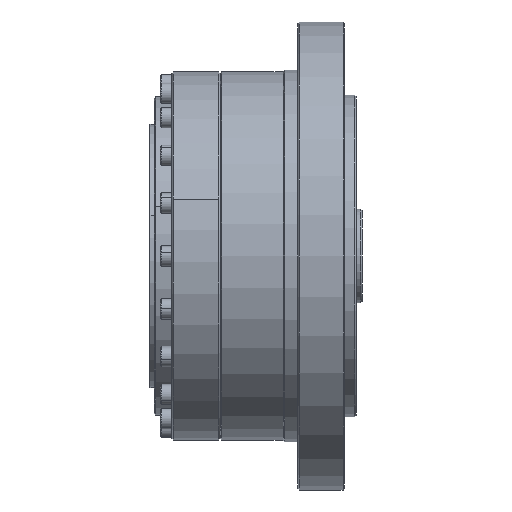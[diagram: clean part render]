
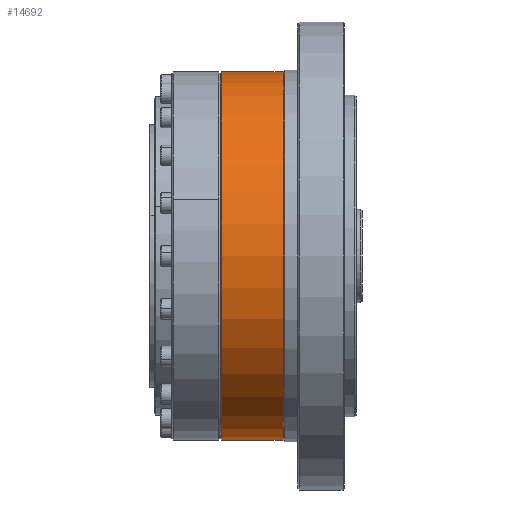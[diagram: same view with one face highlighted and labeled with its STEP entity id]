
A CAD part, front view. The second image highlights one B-rep face of the part: STEP entity #14692.
In plain terms, the highlighted cylindrical face has radius 63 mm (diameter 126 mm), a partial arc.
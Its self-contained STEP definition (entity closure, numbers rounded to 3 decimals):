
#942 = DIRECTION ( 'NONE',  ( 0., 0., -1. ) ) ;
#1430 = CIRCLE ( 'NONE', #2696, 63. ) ;
#1589 = CARTESIAN_POINT ( 'NONE',  ( -18.475, -0.397, 97. ) ) ;
#1648 = CIRCLE ( 'NONE', #2925, 63. ) ;
#2173 = CARTESIAN_POINT ( 'NONE',  ( -323.729, -0.397, 160. ) ) ;
#2696 = AXIS2_PLACEMENT_3D ( 'NONE', #15414, #6607, #16862 ) ;
#2887 = DIRECTION ( 'NONE',  ( -1., 0., 0. ) ) ;
#2917 = ORIENTED_EDGE ( 'NONE', *, *, #18584, .T. ) ;
#2925 = AXIS2_PLACEMENT_3D ( 'NONE', #18406, #9677, #942 ) ;
#3282 = DIRECTION ( 'NONE',  ( -1., 0., 0. ) ) ;
#3802 = VERTEX_POINT ( 'NONE', #11370 ) ;
#4154 = FACE_OUTER_BOUND ( 'NONE', #9440, .T. ) ;
#4329 = VERTEX_POINT ( 'NONE', #1589 ) ;
#4818 = LINE ( 'NONE', #11689, #12206 ) ;
#5059 = VECTOR ( 'NONE', #3282, 1000. ) ;
#5409 = ORIENTED_EDGE ( 'NONE', *, *, #9559, .T. ) ;
#6566 = DIRECTION ( 'NONE',  ( 0., 0., 1. ) ) ;
#6607 = DIRECTION ( 'NONE',  ( -1., 0., 0. ) ) ;
#7268 = ORIENTED_EDGE ( 'NONE', *, *, #18097, .F. ) ;
#8738 = VERTEX_POINT ( 'NONE', #13196 ) ;
#8996 = LINE ( 'NONE', #12081, #5059 ) ;
#9440 = EDGE_LOOP ( 'NONE', ( #7268, #2917, #17129, #5409 ) ) ;
#9559 = EDGE_CURVE ( 'NONE', #8738, #4329, #1648, .T. ) ;
#9677 = DIRECTION ( 'NONE',  ( 1., 0., 0. ) ) ;
#11370 = CARTESIAN_POINT ( 'NONE',  ( 2.525, -0.397, 223. ) ) ;
#11533 = CYLINDRICAL_SURFACE ( 'NONE', #14471, 63. ) ;
#11689 = CARTESIAN_POINT ( 'NONE',  ( -323.729, -0.397, 97. ) ) ;
#12081 = CARTESIAN_POINT ( 'NONE',  ( -323.729, -0.397, 223. ) ) ;
#12206 = VECTOR ( 'NONE', #2887, 1000. ) ;
#13196 = CARTESIAN_POINT ( 'NONE',  ( -18.475, -0.397, 223. ) ) ;
#14471 = AXIS2_PLACEMENT_3D ( 'NONE', #2173, #15370, #6566 ) ;
#14692 = ADVANCED_FACE ( 'NONE', ( #4154 ), #11533, .T. ) ;
#15367 = VERTEX_POINT ( 'NONE', #18254 ) ;
#15370 = DIRECTION ( 'NONE',  ( -1., 0., 0. ) ) ;
#15414 = CARTESIAN_POINT ( 'NONE',  ( 2.525, -0.397, 160. ) ) ;
#16862 = DIRECTION ( 'NONE',  ( 0., 0., -1. ) ) ;
#17129 = ORIENTED_EDGE ( 'NONE', *, *, #17741, .T. ) ;
#17741 = EDGE_CURVE ( 'NONE', #3802, #8738, #8996, .T. ) ;
#18097 = EDGE_CURVE ( 'NONE', #15367, #4329, #4818, .T. ) ;
#18254 = CARTESIAN_POINT ( 'NONE',  ( 2.525, -0.397, 97. ) ) ;
#18406 = CARTESIAN_POINT ( 'NONE',  ( -18.475, -0.397, 160. ) ) ;
#18584 = EDGE_CURVE ( 'NONE', #15367, #3802, #1430, .T. ) ;
